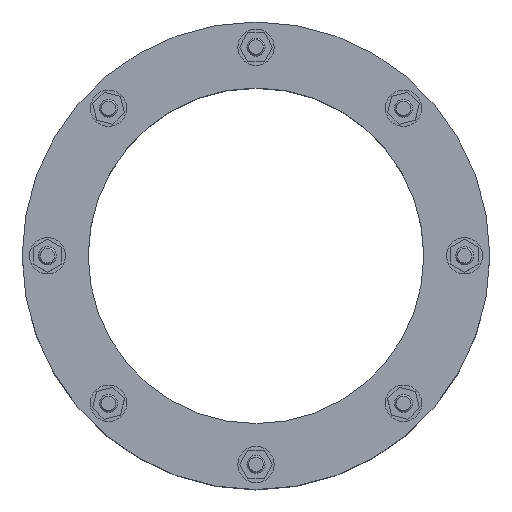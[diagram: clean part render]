
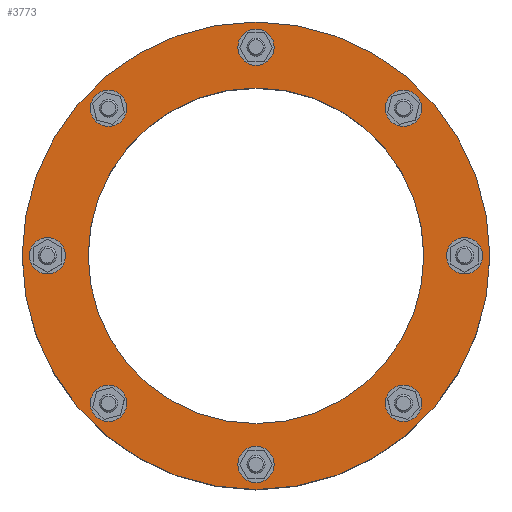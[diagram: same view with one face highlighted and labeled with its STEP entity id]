
A CAD part, top view. The second image highlights one B-rep face of the part: STEP entity #3773.
In plain terms, the highlighted planar face has unit normal (0, 0, 1).
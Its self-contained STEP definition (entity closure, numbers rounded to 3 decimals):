
#724=CARTESIAN_POINT('',(97.581,97.581,74.34));
#725=DIRECTION('',(0.,0.,1.));
#726=DIRECTION('',(0.707,-0.707,0.));
#727=AXIS2_PLACEMENT_3D('',#724,#725,#726);
#729=CARTESIAN_POINT('',(97.581,97.581,74.34));
#730=DIRECTION('',(0.,0.,1.));
#731=DIRECTION('',(-0.707,0.707,0.));
#732=AXIS2_PLACEMENT_3D('',#729,#730,#731);
#734=CARTESIAN_POINT('',(97.581,-97.581,74.34));
#735=DIRECTION('',(0.,0.,1.));
#736=DIRECTION('',(-0.707,-0.707,0.));
#737=AXIS2_PLACEMENT_3D('',#734,#735,#736);
#739=CARTESIAN_POINT('',(97.581,-97.581,74.34));
#740=DIRECTION('',(0.,0.,1.));
#741=DIRECTION('',(0.707,0.707,0.));
#742=AXIS2_PLACEMENT_3D('',#739,#740,#741);
#744=CARTESIAN_POINT('',(-97.581,-97.581,74.34));
#745=DIRECTION('',(0.,0.,1.));
#746=DIRECTION('',(-0.707,0.707,0.));
#747=AXIS2_PLACEMENT_3D('',#744,#745,#746);
#749=CARTESIAN_POINT('',(-97.581,-97.581,74.34));
#750=DIRECTION('',(0.,0.,1.));
#751=DIRECTION('',(0.707,-0.707,0.));
#752=AXIS2_PLACEMENT_3D('',#749,#750,#751);
#754=CARTESIAN_POINT('',(-97.581,97.581,74.34));
#755=DIRECTION('',(0.,0.,1.));
#756=DIRECTION('',(0.707,0.707,0.));
#757=AXIS2_PLACEMENT_3D('',#754,#755,#756);
#759=CARTESIAN_POINT('',(-97.581,97.581,74.34));
#760=DIRECTION('',(0.,0.,1.));
#761=DIRECTION('',(-0.707,-0.707,0.));
#762=AXIS2_PLACEMENT_3D('',#759,#760,#761);
#764=CARTESIAN_POINT('',(0.,0.,74.34));
#765=DIRECTION('',(0.,0.,1.));
#766=DIRECTION('',(0.,1.,0.));
#767=AXIS2_PLACEMENT_3D('',#764,#765,#766);
#769=CARTESIAN_POINT('',(0.,0.,74.34));
#770=DIRECTION('',(0.,0.,-1.));
#771=DIRECTION('',(0.,1.,0.));
#772=AXIS2_PLACEMENT_3D('',#769,#770,#771);
#774=CARTESIAN_POINT('',(0.,138.,74.34));
#775=DIRECTION('',(0.,0.,1.));
#776=DIRECTION('',(1.,0.,0.));
#777=AXIS2_PLACEMENT_3D('',#774,#775,#776);
#779=CARTESIAN_POINT('',(0.,138.,74.34));
#780=DIRECTION('',(0.,0.,1.));
#781=DIRECTION('',(-1.,0.,0.));
#782=AXIS2_PLACEMENT_3D('',#779,#780,#781);
#784=CARTESIAN_POINT('',(-138.,0.,74.34));
#785=DIRECTION('',(0.,0.,1.));
#786=DIRECTION('',(0.,1.,0.));
#787=AXIS2_PLACEMENT_3D('',#784,#785,#786);
#789=CARTESIAN_POINT('',(-138.,0.,74.34));
#790=DIRECTION('',(0.,0.,1.));
#791=DIRECTION('',(0.,-1.,0.));
#792=AXIS2_PLACEMENT_3D('',#789,#790,#791);
#794=CARTESIAN_POINT('',(0.,-138.,74.34));
#795=DIRECTION('',(0.,0.,1.));
#796=DIRECTION('',(-1.,0.,0.));
#797=AXIS2_PLACEMENT_3D('',#794,#795,#796);
#799=CARTESIAN_POINT('',(0.,-138.,74.34));
#800=DIRECTION('',(0.,0.,1.));
#801=DIRECTION('',(1.,0.,0.));
#802=AXIS2_PLACEMENT_3D('',#799,#800,#801);
#804=CARTESIAN_POINT('',(138.,0.,74.34));
#805=DIRECTION('',(0.,0.,1.));
#806=DIRECTION('',(0.,-1.,0.));
#807=AXIS2_PLACEMENT_3D('',#804,#805,#806);
#809=CARTESIAN_POINT('',(138.,0.,74.34));
#810=DIRECTION('',(0.,0.,1.));
#811=DIRECTION('',(0.,1.,0.));
#812=AXIS2_PLACEMENT_3D('',#809,#810,#811);
#2190=CARTESIAN_POINT('',(0.,0.,74.34));
#2191=DIRECTION('',(0.,0.,1.));
#2192=DIRECTION('',(0.,1.,0.));
#2193=AXIS2_PLACEMENT_3D('',#2190,#2191,#2192);
#2199=CARTESIAN_POINT('',(0.,0.,74.34));
#2200=DIRECTION('',(0.,0.,-1.));
#2201=DIRECTION('',(0.,1.,0.));
#2202=AXIS2_PLACEMENT_3D('',#2199,#2200,#2201);
#2661=CARTESIAN_POINT('',(0.,154.66,74.34));
#2663=VERTEX_POINT('',#2661);
#2664=CARTESIAN_POINT('',(0.,111.,74.34));
#2666=VERTEX_POINT('',#2664);
#2687=CARTESIAN_POINT('',(0.,-154.66,74.34));
#2689=VERTEX_POINT('',#2687);
#2690=CARTESIAN_POINT('',(0.,-111.,74.34));
#2692=VERTEX_POINT('',#2690);
#2708=CARTESIAN_POINT('',(12.,138.,74.34));
#2709=CARTESIAN_POINT('',(-12.,138.,74.34));
#2710=VERTEX_POINT('',#2708);
#2711=VERTEX_POINT('',#2709);
#3008=CARTESIAN_POINT('',(-89.095,106.066,74.34));
#3009=VERTEX_POINT('',#3008);
#3010=CARTESIAN_POINT('',(-106.066,89.095,74.34));
#3011=VERTEX_POINT('',#3010);
#3028=CARTESIAN_POINT('',(-138.,12.,74.34));
#3029=VERTEX_POINT('',#3028);
#3030=CARTESIAN_POINT('',(-138.,-12.,74.34));
#3031=VERTEX_POINT('',#3030);
#3048=CARTESIAN_POINT('',(-106.066,-89.095,74.34));
#3049=VERTEX_POINT('',#3048);
#3050=CARTESIAN_POINT('',(-89.095,-106.066,74.34));
#3051=VERTEX_POINT('',#3050);
#3068=CARTESIAN_POINT('',(-12.,-138.,74.34));
#3069=VERTEX_POINT('',#3068);
#3070=CARTESIAN_POINT('',(12.,-138.,74.34));
#3071=VERTEX_POINT('',#3070);
#3088=CARTESIAN_POINT('',(89.095,-106.066,74.34));
#3089=VERTEX_POINT('',#3088);
#3090=CARTESIAN_POINT('',(106.066,-89.095,74.34));
#3091=VERTEX_POINT('',#3090);
#3108=CARTESIAN_POINT('',(138.,-12.,74.34));
#3109=VERTEX_POINT('',#3108);
#3110=CARTESIAN_POINT('',(138.,12.,74.34));
#3111=VERTEX_POINT('',#3110);
#3128=CARTESIAN_POINT('',(106.066,89.095,74.34));
#3129=VERTEX_POINT('',#3128);
#3130=CARTESIAN_POINT('',(89.095,106.066,74.34));
#3131=VERTEX_POINT('',#3130);
#3709=CARTESIAN_POINT('',(0.,0.,74.34));
#3710=DIRECTION('',(0.,0.,1.));
#3711=DIRECTION('',(0.,1.,0.));
#3712=AXIS2_PLACEMENT_3D('',#3709,#3710,#3711);
#3713=PLANE('',#3712);
#3715=ORIENTED_EDGE('',*,*,#3714,.F.);
#3717=ORIENTED_EDGE('',*,*,#3716,.T.);
#3718=EDGE_LOOP('',(#3715,#3717));
#3719=FACE_OUTER_BOUND('',#3718,.F.);
#3720=ORIENTED_EDGE('',*,*,#3699,.T.);
#3722=ORIENTED_EDGE('',*,*,#3721,.T.);
#3723=EDGE_LOOP('',(#3720,#3722));
#3724=FACE_BOUND('',#3723,.F.);
#3726=ORIENTED_EDGE('',*,*,#3725,.T.);
#3728=ORIENTED_EDGE('',*,*,#3727,.T.);
#3729=EDGE_LOOP('',(#3726,#3728));
#3730=FACE_BOUND('',#3729,.F.);
#3732=ORIENTED_EDGE('',*,*,#3731,.T.);
#3734=ORIENTED_EDGE('',*,*,#3733,.T.);
#3735=EDGE_LOOP('',(#3732,#3734));
#3736=FACE_BOUND('',#3735,.F.);
#3738=ORIENTED_EDGE('',*,*,#3737,.T.);
#3740=ORIENTED_EDGE('',*,*,#3739,.T.);
#3741=EDGE_LOOP('',(#3738,#3740));
#3742=FACE_BOUND('',#3741,.F.);
#3744=ORIENTED_EDGE('',*,*,#3743,.F.);
#3746=ORIENTED_EDGE('',*,*,#3745,.T.);
#3747=EDGE_LOOP('',(#3744,#3746));
#3748=FACE_BOUND('',#3747,.F.);
#3750=ORIENTED_EDGE('',*,*,#3749,.T.);
#3752=ORIENTED_EDGE('',*,*,#3751,.T.);
#3753=EDGE_LOOP('',(#3750,#3752));
#3754=FACE_BOUND('',#3753,.F.);
#3756=ORIENTED_EDGE('',*,*,#3755,.T.);
#3758=ORIENTED_EDGE('',*,*,#3757,.T.);
#3759=EDGE_LOOP('',(#3756,#3758));
#3760=FACE_BOUND('',#3759,.F.);
#3762=ORIENTED_EDGE('',*,*,#3761,.T.);
#3764=ORIENTED_EDGE('',*,*,#3763,.T.);
#3765=EDGE_LOOP('',(#3762,#3764));
#3766=FACE_BOUND('',#3765,.F.);
#3768=ORIENTED_EDGE('',*,*,#3767,.T.);
#3770=ORIENTED_EDGE('',*,*,#3769,.T.);
#3771=EDGE_LOOP('',(#3768,#3770));
#3772=FACE_BOUND('',#3771,.F.);
#3773=ADVANCED_FACE('',(#3719,#3724,#3730,#3736,#3742,#3748,#3754,#3760,#3766,
#3772),#3713,.T.);
#728=CIRCLE('',#727,12.);
#733=CIRCLE('',#732,12.);
#738=CIRCLE('',#737,12.);
#743=CIRCLE('',#742,12.);
#748=CIRCLE('',#747,12.);
#753=CIRCLE('',#752,12.);
#758=CIRCLE('',#757,12.);
#763=CIRCLE('',#762,12.);
#768=CIRCLE('',#767,154.66);
#773=CIRCLE('',#772,154.66);
#778=CIRCLE('',#777,12.);
#783=CIRCLE('',#782,12.);
#788=CIRCLE('',#787,12.);
#793=CIRCLE('',#792,12.);
#798=CIRCLE('',#797,12.);
#803=CIRCLE('',#802,12.);
#808=CIRCLE('',#807,12.);
#813=CIRCLE('',#812,12.);
#2194=CIRCLE('',#2193,111.);
#2203=CIRCLE('',#2202,111.);
#3699=EDGE_CURVE('',#3089,#3091,#738,.T.);
#3714=EDGE_CURVE('',#2663,#2689,#768,.T.);
#3716=EDGE_CURVE('',#2663,#2689,#773,.T.);
#3721=EDGE_CURVE('',#3091,#3089,#743,.T.);
#3725=EDGE_CURVE('',#3049,#3051,#748,.T.);
#3727=EDGE_CURVE('',#3051,#3049,#753,.T.);
#3731=EDGE_CURVE('',#3009,#3011,#758,.T.);
#3733=EDGE_CURVE('',#3011,#3009,#763,.T.);
#3737=EDGE_CURVE('',#3129,#3131,#728,.T.);
#3739=EDGE_CURVE('',#3131,#3129,#733,.T.);
#3743=EDGE_CURVE('',#2666,#2692,#2203,.T.);
#3745=EDGE_CURVE('',#2666,#2692,#2194,.T.);
#3749=EDGE_CURVE('',#2710,#2711,#778,.T.);
#3751=EDGE_CURVE('',#2711,#2710,#783,.T.);
#3755=EDGE_CURVE('',#3029,#3031,#788,.T.);
#3757=EDGE_CURVE('',#3031,#3029,#793,.T.);
#3761=EDGE_CURVE('',#3069,#3071,#798,.T.);
#3763=EDGE_CURVE('',#3071,#3069,#803,.T.);
#3767=EDGE_CURVE('',#3109,#3111,#808,.T.);
#3769=EDGE_CURVE('',#3111,#3109,#813,.T.);
